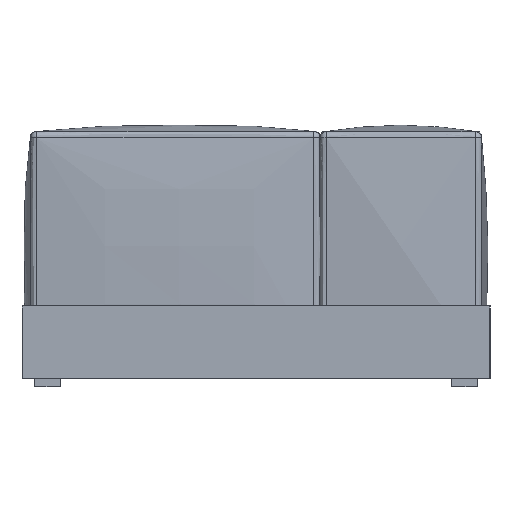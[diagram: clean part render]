
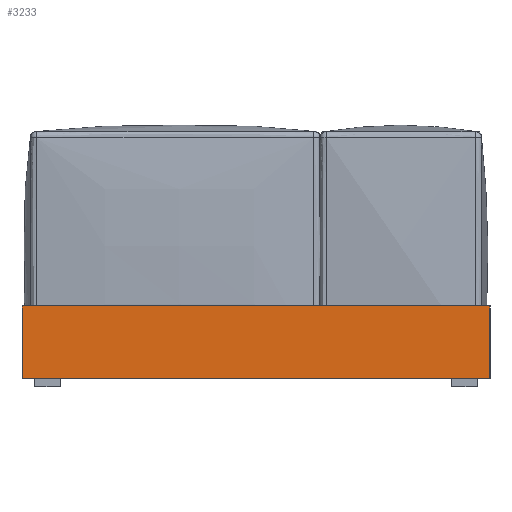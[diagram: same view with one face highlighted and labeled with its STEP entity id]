
A CAD part, left-side view. The second image highlights one B-rep face of the part: STEP entity #3233.
In plain terms, the highlighted planar face has unit normal (-1, 0, 0).
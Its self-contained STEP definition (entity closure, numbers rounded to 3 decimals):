
#505=FACE_OUTER_BOUND('',#757,.T.);
#757=EDGE_LOOP('',(#2197,#2198,#2199,#2200));
#1021=LINE('',#4668,#1217);
#1022=LINE('',#4670,#1218);
#1023=LINE('',#4672,#1219);
#1024=LINE('',#4673,#1220);
#1217=VECTOR('',#3862,10.);
#1218=VECTOR('',#3863,10.);
#1219=VECTOR('',#3864,10.);
#1220=VECTOR('',#3865,10.);
#1405=VERTEX_POINT('',#4666);
#1406=VERTEX_POINT('',#4667);
#1407=VERTEX_POINT('',#4669);
#1408=VERTEX_POINT('',#4671);
#1689=EDGE_CURVE('',#1405,#1406,#1021,.T.);
#1690=EDGE_CURVE('',#1405,#1407,#1022,.T.);
#1691=EDGE_CURVE('',#1408,#1407,#1023,.T.);
#1692=EDGE_CURVE('',#1406,#1408,#1024,.T.);
#2197=ORIENTED_EDGE('',*,*,#1689,.F.);
#2198=ORIENTED_EDGE('',*,*,#1690,.T.);
#2199=ORIENTED_EDGE('',*,*,#1691,.F.);
#2200=ORIENTED_EDGE('',*,*,#1692,.F.);
#3129=PLANE('',#3520);
#3233=ADVANCED_FACE('',(#505),#3129,.T.);
#3520=AXIS2_PLACEMENT_3D('',#4665,#3860,#3861);
#3860=DIRECTION('center_axis',(-1.,0.,0.));
#3861=DIRECTION('ref_axis',(0.,-1.,0.));
#3862=DIRECTION('',(0.,1.,0.));
#3863=DIRECTION('',(0.,0.,1.));
#3864=DIRECTION('',(0.,-1.,0.));
#3865=DIRECTION('',(0.,0.,1.));
#4665=CARTESIAN_POINT('Origin',(-1100.,550.,0.));
#4666=CARTESIAN_POINT('',(-1100.,-550.,0.));
#4667=CARTESIAN_POINT('',(-1100.,550.,0.));
#4668=CARTESIAN_POINT('',(-1100.,-550.,0.));
#4669=CARTESIAN_POINT('',(-1100.,-550.,170.));
#4670=CARTESIAN_POINT('',(-1100.,-550.,0.));
#4671=CARTESIAN_POINT('',(-1100.,550.,170.));
#4672=CARTESIAN_POINT('',(-1100.,-550.,170.));
#4673=CARTESIAN_POINT('',(-1100.,550.,0.));
